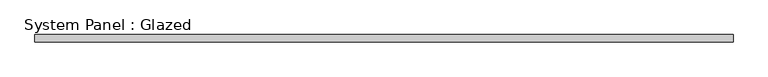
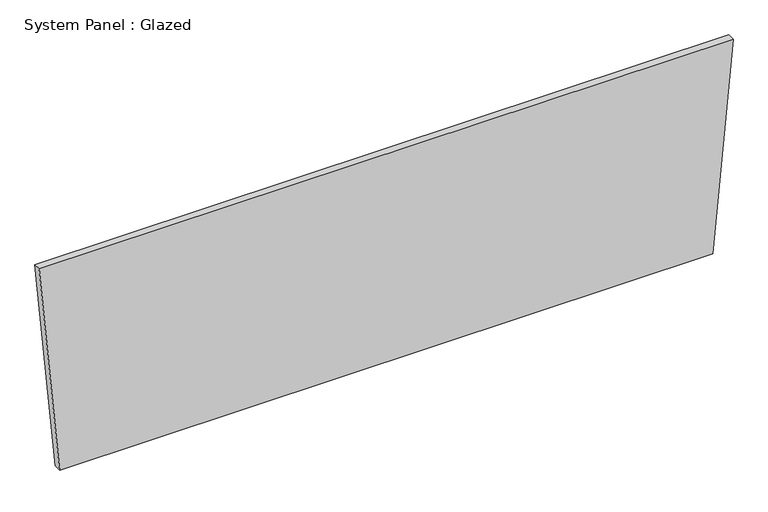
"""IFC4 building model written with IfcOpenShell, lengths in millimetres: plate geometry, System Panel : Glazed."""

from ifc_helpers import new_model, si_unit, frame, origin, place, context, project, spatial, polyline, outline, extrude, source, transform, mapped, element, save


def system_panel_glazed_aa8377f3(model_context):
    return source(origin(), model_context, "Body", "SweptSolid", [
        extrude(outline(polyline([(0.0, -1127.1507987), (0.0, 1127.1507987), (758.7366017, 1197.5977237), (758.7366017, -1197.5977237), (0.0, -1127.1507987)])), frame((0.0, -44.45, 0.0), z_axis=(0.0, 1.0, 0.0), x_axis=(0.0, 0.0, 1.0)), (0.0, 0.0, 1.0), 25.4),
    ])


if __name__ == "__main__":
    model = new_model("IFC4")
    model_context = context("Model", 3, world=origin())
    ifc_project = project(units=[si_unit("LENGTHUNIT", "METRE", prefix="MILLI")], contexts=[model_context])
    site = spatial("IfcSite", under=ifc_project)
    building = spatial("IfcBuilding", under=site)
    placement = place(None, origin())
    system_panel_glazed_shape = system_panel_glazed_aa8377f3(model_context)
    element("IfcPlate", 1, ObjectType="System Panel : Glazed", at=placement, inside=building, context=model_context, shape_type="MappedRepresentation", body=[
        mapped(system_panel_glazed_shape, transform((0.0, 0.0, 0.0), x_axis=(1.0, 0.0, 0.0), y_axis=(0.0, 1.0, 0.0), z_axis=(0.0, 0.0, 1.0))),
    ])
    save(model, "model.ifc")
